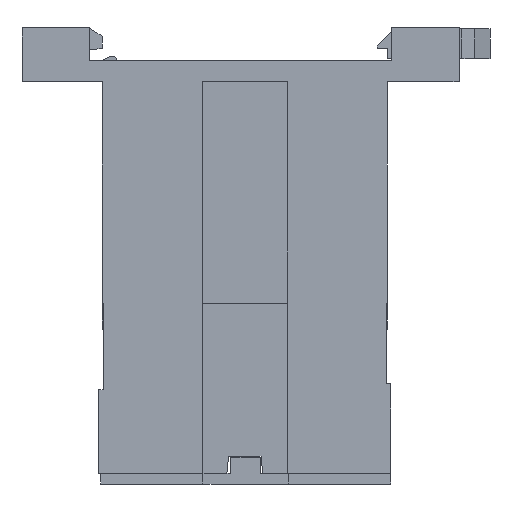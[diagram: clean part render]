
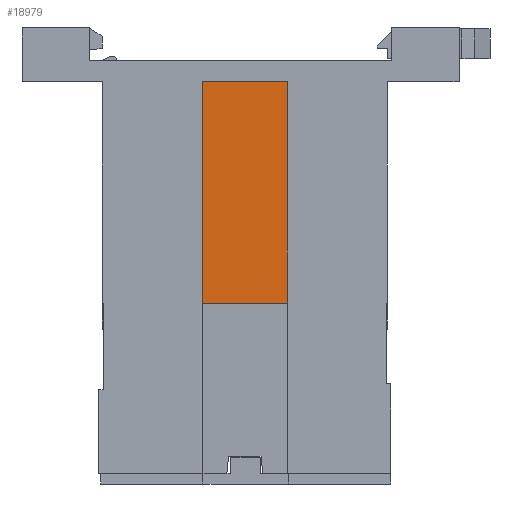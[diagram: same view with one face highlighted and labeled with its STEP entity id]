
A CAD part, left-side view. The second image highlights one B-rep face of the part: STEP entity #18979.
In plain terms, the highlighted planar face has unit normal (-1, 0, 0).
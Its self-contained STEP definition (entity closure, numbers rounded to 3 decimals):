
#1649 = DIRECTION ( 'NONE',  ( 0., -1., 0. ) ) ;
#1876 = EDGE_CURVE ( 'NONE', #19521, #34325, #6679, .T. ) ;
#2238 = CARTESIAN_POINT ( 'NONE',  ( -18.747, 16.078, 42.019 ) ) ;
#3233 = VECTOR ( 'NONE', #28715, 1000. ) ;
#3684 = LINE ( 'NONE', #2238, #11304 ) ;
#4097 = FACE_OUTER_BOUND ( 'NONE', #31256, .T. ) ;
#5440 = EDGE_CURVE ( 'NONE', #34325, #10075, #3684, .T. ) ;
#5638 = EDGE_CURVE ( 'NONE', #19521, #24347, #10841, .T. ) ;
#6424 = ORIENTED_EDGE ( 'NONE', *, *, #5440, .F. ) ;
#6679 = LINE ( 'NONE', #32883, #14266 ) ;
#7343 = CARTESIAN_POINT ( 'NONE',  ( -18.747, 26.078, 42.019 ) ) ;
#7738 = ORIENTED_EDGE ( 'NONE', *, *, #1876, .F. ) ;
#8623 = AXIS2_PLACEMENT_3D ( 'NONE', #16112, #36034, #18944 ) ;
#10075 = VERTEX_POINT ( 'NONE', #33504 ) ;
#10841 = LINE ( 'NONE', #22988, #3233 ) ;
#11304 = VECTOR ( 'NONE', #16443, 1000. ) ;
#12485 = PLANE ( 'NONE',  #8623 ) ;
#14066 = CARTESIAN_POINT ( 'NONE',  ( -18.747, 26.078, 16.019 ) ) ;
#14266 = VECTOR ( 'NONE', #1649, 1000. ) ;
#14477 = CARTESIAN_POINT ( 'NONE',  ( -18.747, 16.078, 42.019 ) ) ;
#16112 = CARTESIAN_POINT ( 'NONE',  ( -18.747, 16.078, 42.019 ) ) ;
#16443 = DIRECTION ( 'NONE',  ( 0., 0., -1. ) ) ;
#17556 = ORIENTED_EDGE ( 'NONE', *, *, #5638, .T. ) ;
#18944 = DIRECTION ( 'NONE',  ( 0., -1., 0. ) ) ;
#18979 = ADVANCED_FACE ( 'NONE', ( #4097 ), #12485, .F. ) ;
#19521 = VERTEX_POINT ( 'NONE', #7343 ) ;
#21918 = DIRECTION ( 'NONE',  ( 0., -1., 0. ) ) ;
#22988 = CARTESIAN_POINT ( 'NONE',  ( -18.747, 26.078, 42.019 ) ) ;
#24347 = VERTEX_POINT ( 'NONE', #14066 ) ;
#25325 = ORIENTED_EDGE ( 'NONE', *, *, #36886, .T. ) ;
#27825 = VECTOR ( 'NONE', #21918, 1000. ) ;
#28708 = LINE ( 'NONE', #36150, #27825 ) ;
#28715 = DIRECTION ( 'NONE',  ( 0., 0., -1. ) ) ;
#31256 = EDGE_LOOP ( 'NONE', ( #25325, #6424, #7738, #17556 ) ) ;
#32883 = CARTESIAN_POINT ( 'NONE',  ( -18.747, 16.078, 42.019 ) ) ;
#33504 = CARTESIAN_POINT ( 'NONE',  ( -18.747, 16.078, 16.019 ) ) ;
#34325 = VERTEX_POINT ( 'NONE', #14477 ) ;
#36034 = DIRECTION ( 'NONE',  ( 1., 0., 0. ) ) ;
#36150 = CARTESIAN_POINT ( 'NONE',  ( -18.747, 16.078, 16.019 ) ) ;
#36886 = EDGE_CURVE ( 'NONE', #24347, #10075, #28708, .T. ) ;
